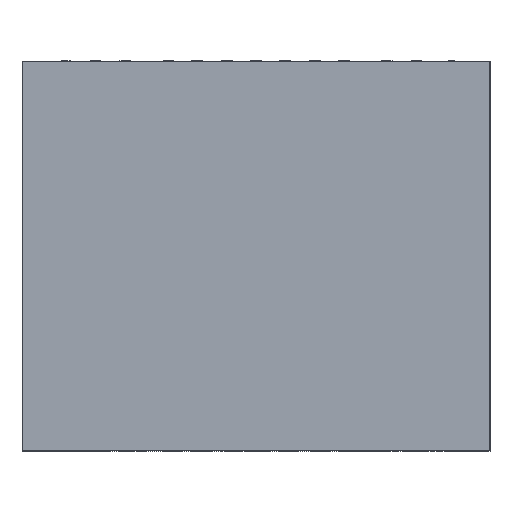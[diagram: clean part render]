
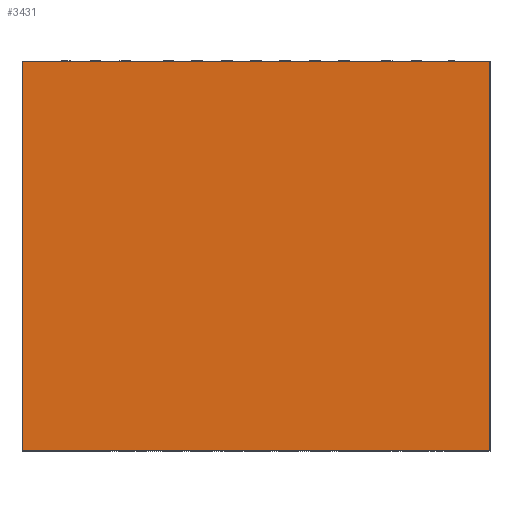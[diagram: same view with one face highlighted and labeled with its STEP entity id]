
A CAD part, front view. The second image highlights one B-rep face of the part: STEP entity #3431.
In plain terms, the highlighted planar face has unit normal (0, -1, 0).
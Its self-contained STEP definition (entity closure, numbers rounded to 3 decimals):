
#197 = VERTEX_POINT ( 'NONE', #3746 ) ;
#229 = LINE ( 'NONE', #1603, #3963 ) ;
#405 = FACE_OUTER_BOUND ( 'NONE', #1441, .T. ) ;
#598 = ORIENTED_EDGE ( 'NONE', *, *, #1403, .F. ) ;
#881 = AXIS2_PLACEMENT_3D ( 'NONE', #2472, #1821, #3104 ) ;
#1086 = CARTESIAN_POINT ( 'NONE',  ( 19.086, -18.701, -2.749 ) ) ;
#1100 = CARTESIAN_POINT ( 'NONE',  ( -15.712, -18.701, -2.749 ) ) ;
#1116 = DIRECTION ( 'NONE',  ( -1., 0., 0. ) ) ;
#1123 = PLANE ( 'NONE',  #881 ) ;
#1249 = ORIENTED_EDGE ( 'NONE', *, *, #3705, .F. ) ;
#1403 = EDGE_CURVE ( 'NONE', #2123, #1552, #229, .T. ) ;
#1423 = DIRECTION ( 'NONE',  ( 0., 0., -1. ) ) ;
#1441 = EDGE_LOOP ( 'NONE', ( #3213, #598, #1249, #2852 ) ) ;
#1552 = VERTEX_POINT ( 'NONE', #4313 ) ;
#1603 = CARTESIAN_POINT ( 'NONE',  ( -15.712, -18.701, -2.749 ) ) ;
#1706 = CARTESIAN_POINT ( 'NONE',  ( -15.712, -18.701, 26.207 ) ) ;
#1821 = DIRECTION ( 'NONE',  ( 0., 1., 0. ) ) ;
#2004 = EDGE_CURVE ( 'NONE', #197, #2565, #2392, .T. ) ;
#2123 = VERTEX_POINT ( 'NONE', #3427 ) ;
#2392 = LINE ( 'NONE', #1706, #3846 ) ;
#2472 = CARTESIAN_POINT ( 'NONE',  ( -15.712, -18.701, 26.207 ) ) ;
#2492 = CARTESIAN_POINT ( 'NONE',  ( 19.086, -18.701, 26.207 ) ) ;
#2565 = VERTEX_POINT ( 'NONE', #2492 ) ;
#2743 = LINE ( 'NONE', #1086, #3317 ) ;
#2829 = DIRECTION ( 'NONE',  ( 0., 0., 1. ) ) ;
#2852 = ORIENTED_EDGE ( 'NONE', *, *, #2004, .F. ) ;
#3001 = DIRECTION ( 'NONE',  ( 1., 0., 0. ) ) ;
#3104 = DIRECTION ( 'NONE',  ( 0., 0., 1. ) ) ;
#3213 = ORIENTED_EDGE ( 'NONE', *, *, #3908, .F. ) ;
#3317 = VECTOR ( 'NONE', #1423, 1000. ) ;
#3421 = LINE ( 'NONE', #1100, #3842 ) ;
#3427 = CARTESIAN_POINT ( 'NONE',  ( 19.086, -18.701, -2.749 ) ) ;
#3431 = ADVANCED_FACE ( 'NONE', ( #405 ), #1123, .F. ) ;
#3705 = EDGE_CURVE ( 'NONE', #2565, #2123, #2743, .T. ) ;
#3746 = CARTESIAN_POINT ( 'NONE',  ( -15.712, -18.701, 26.207 ) ) ;
#3842 = VECTOR ( 'NONE', #2829, 1000. ) ;
#3846 = VECTOR ( 'NONE', #3001, 1000. ) ;
#3908 = EDGE_CURVE ( 'NONE', #1552, #197, #3421, .T. ) ;
#3963 = VECTOR ( 'NONE', #1116, 1000. ) ;
#4313 = CARTESIAN_POINT ( 'NONE',  ( -15.712, -18.701, -2.749 ) ) ;
